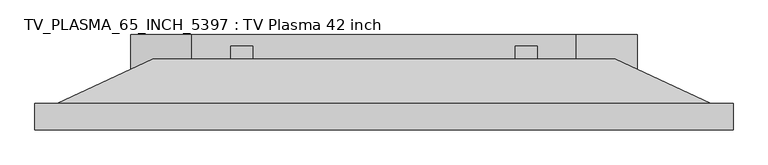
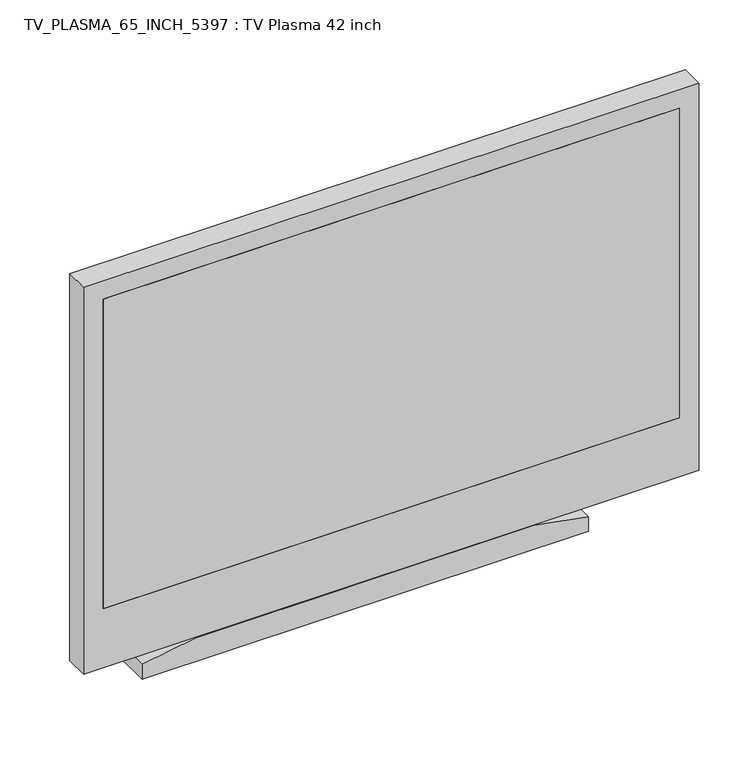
"""IFC4 building model written with IfcOpenShell, lengths in millimetres: proxy geometry, TV_PLASMA_65_INCH_5397 : TV Plasma 42 inch."""

from ifc_helpers import new_model, si_unit, frame, origin, place, context, project, spatial, polyline, outline, extrude, faceted_brep, source, transform, mapped, element, save


def tv_plasma_65_inch_5397_tv_plasma_42_inch_3d32dca7(model_context):
    return source(origin(), model_context, "Body", "SolidModel", [
        extrude(outline(polyline([(665.6892551, 570.1483618), (705.6892551, 570.1483618), (730.0, 432.2752763), (730.0, -432.2752763), (705.6892551, -570.1483618), (665.6892551, -570.1483618), (665.6892551, 570.1483618)])), frame((0.0, 55.0, 0.0), z_axis=(0.0, 1.0, 0.0), x_axis=(0.0, 0.0, 1.0)), (0.0, 0.0, 1.0), 100.0),
        extrude(outline(polyline([(345.0, 130.0), (345.0, 100.0), (295.0, 100.0), (295.0, 130.0), (345.0, 130.0)])), frame((0.0, 0.0, 730.0), z_axis=(0.0, 0.0, 1.0), x_axis=(1.0, 0.0, 0.0)), (0.0, 0.0, 1.0), 463.2006598),
        extrude(outline(polyline([(-345.0, 100.0), (-345.0, 130.0), (-295.0, 130.0), (-295.0, 100.0), (-345.0, 100.0)])), frame((0.0, 0.0, 730.0), z_axis=(0.0, 0.0, 1.0), x_axis=(1.0, 0.0, 0.0)), (0.0, 0.0, 1.0), 463.2006598),
        faceted_brep([(520.8315059, 100.0, 1546.622525), (520.8315059, 100.0, 1261.6107384), (-520.8315059, 100.0, 1261.6107384), (-520.8315059, 100.0, 1546.622525), (735.8315059, 0.0, 1819.122525), (-735.8315059, 0.0, 1819.122525), (-735.8315059, 0.0, 874.1107384), (735.8315059, 0.0, 874.1107384)], [[[0, 1, 2, 3]], [[4, 5, 6, 7]], [[4, 7, 1, 0]], [[7, 6, 2, 1]], [[6, 5, 3, 2]], [[5, 4, 0, 3]]]),
        extrude(outline(polyline([(735.8315059, -60.0), (-735.8315059, -60.0), (-735.8315059, -54.0), (735.8315059, -54.0), (735.8315059, -60.0)])), frame((0.0, 0.0, 984.1107384), z_axis=(0.0, 0.0, 1.0), x_axis=(1.0, 0.0, 0.0)), (0.0, 0.0, 1.0), 835.0117866),
        extrude(outline(polyline([(1869.122525, 785.8315059), (1869.122525, -785.8315059), (824.1107384, -785.8315059), (824.1107384, 785.8315059), (1869.122525, 785.8315059)]), holes=[polyline([(1819.122525, 735.8315059), (984.1107384, 735.8315059), (984.1107384, -735.8315059), (1819.122525, -735.8315059), (1819.122525, 735.8315059)])]), frame((0.0, -60.0, 0.0), z_axis=(0.0, 1.0, 0.0), x_axis=(0.0, 0.0, 1.0)), (0.0, 0.0, 1.0), 60.0),
    ])


if __name__ == "__main__":
    model = new_model("IFC4")
    model_context = context("Model", 3, world=origin())
    ifc_project = project(units=[si_unit("LENGTHUNIT", "METRE", prefix="MILLI")], contexts=[model_context])
    site = spatial("IfcSite", under=ifc_project)
    building = spatial("IfcBuilding", under=site)
    placement = place(None, origin())
    tv_plasma_65_inch_5397_tv_plasma_42_inch_shape = tv_plasma_65_inch_5397_tv_plasma_42_inch_3d32dca7(model_context)
    element("IfcBuildingElementProxy", 1, Name="TV_PLASMA_65_INCH_5397 : TV Plasma 42 inch", ObjectType="TV_PLASMA_65_INCH_5397 : TV Plasma 42 inch", at=placement, inside=building, context=model_context, shape_type="MappedRepresentation", body=[
        mapped(tv_plasma_65_inch_5397_tv_plasma_42_inch_shape, transform((0.0, 0.0, 0.0), x_axis=(1.0, 0.0, 0.0), y_axis=(0.0, 1.0, 0.0), z_axis=(0.0, 0.0, 1.0))),
    ])
    save(model, "model.ifc")
